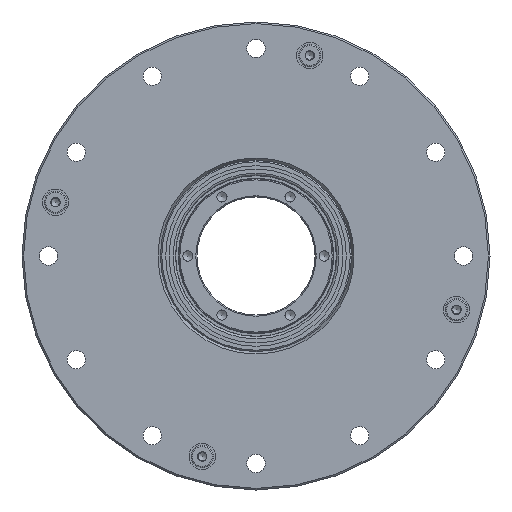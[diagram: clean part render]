
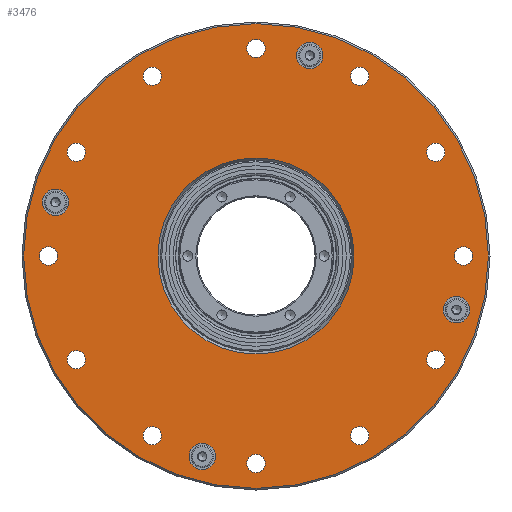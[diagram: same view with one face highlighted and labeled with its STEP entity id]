
A CAD part, left-side view. The second image highlights one B-rep face of the part: STEP entity #3476.
In plain terms, the highlighted planar face has unit normal (-1, 0, 0).
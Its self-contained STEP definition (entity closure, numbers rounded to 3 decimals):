
#1457=PLANE('',#15965);
#3476=ADVANCED_FACE('',(#5173,#5174,#5175,#5176,#5177,#5178,#5179,#5180,
#5181,#5182,#5183,#5184,#5185,#5186,#5187,#5188,#5189,#5190),#1457,.F.);
#5173=FACE_BOUND('',#6898,.T.);
#5174=FACE_BOUND('',#6899,.T.);
#5175=FACE_BOUND('',#6900,.T.);
#5176=FACE_BOUND('',#6901,.T.);
#5177=FACE_BOUND('',#6902,.T.);
#5178=FACE_BOUND('',#6903,.T.);
#5179=FACE_BOUND('',#6904,.T.);
#5180=FACE_BOUND('',#6905,.T.);
#5181=FACE_BOUND('',#6906,.T.);
#5182=FACE_BOUND('',#6907,.T.);
#5183=FACE_BOUND('',#6908,.T.);
#5184=FACE_BOUND('',#6909,.T.);
#5185=FACE_BOUND('',#6910,.T.);
#5186=FACE_BOUND('',#6911,.T.);
#5187=FACE_BOUND('',#6912,.T.);
#5188=FACE_BOUND('',#6913,.T.);
#5189=FACE_BOUND('',#6914,.T.);
#5190=FACE_BOUND('',#6915,.T.);
#6898=EDGE_LOOP('',(#9750));
#6899=EDGE_LOOP('',(#9751));
#6900=EDGE_LOOP('',(#9752));
#6901=EDGE_LOOP('',(#9753));
#6902=EDGE_LOOP('',(#9754));
#6903=EDGE_LOOP('',(#9755));
#6904=EDGE_LOOP('',(#9756));
#6905=EDGE_LOOP('',(#9757));
#6906=EDGE_LOOP('',(#9758));
#6907=EDGE_LOOP('',(#9759));
#6908=EDGE_LOOP('',(#9760));
#6909=EDGE_LOOP('',(#9761));
#6910=EDGE_LOOP('',(#9762));
#6911=EDGE_LOOP('',(#9763));
#6912=EDGE_LOOP('',(#9764));
#6913=EDGE_LOOP('',(#9765));
#6914=EDGE_LOOP('',(#9766));
#6915=EDGE_LOOP('',(#9767));
#9750=ORIENTED_EDGE('',*,*,#12880,.T.);
#9751=ORIENTED_EDGE('',*,*,#12869,.T.);
#9752=ORIENTED_EDGE('',*,*,#12867,.T.);
#9753=ORIENTED_EDGE('',*,*,#12865,.T.);
#9754=ORIENTED_EDGE('',*,*,#12863,.T.);
#9755=ORIENTED_EDGE('',*,*,#12861,.T.);
#9756=ORIENTED_EDGE('',*,*,#12859,.T.);
#9757=ORIENTED_EDGE('',*,*,#12857,.T.);
#9758=ORIENTED_EDGE('',*,*,#12855,.T.);
#9759=ORIENTED_EDGE('',*,*,#12853,.T.);
#9760=ORIENTED_EDGE('',*,*,#12851,.T.);
#9761=ORIENTED_EDGE('',*,*,#12849,.T.);
#9762=ORIENTED_EDGE('',*,*,#12847,.T.);
#9763=ORIENTED_EDGE('',*,*,#12842,.T.);
#9764=ORIENTED_EDGE('',*,*,#12838,.T.);
#9765=ORIENTED_EDGE('',*,*,#12834,.T.);
#9766=ORIENTED_EDGE('',*,*,#12830,.T.);
#9767=ORIENTED_EDGE('',*,*,#12829,.T.);
#11344=VERTEX_POINT('',#29207);
#11345=VERTEX_POINT('',#29210);
#11349=VERTEX_POINT('',#29221);
#11353=VERTEX_POINT('',#29232);
#11357=VERTEX_POINT('',#29243);
#11362=VERTEX_POINT('',#29256);
#11364=VERTEX_POINT('',#29261);
#11366=VERTEX_POINT('',#29266);
#11368=VERTEX_POINT('',#29271);
#11370=VERTEX_POINT('',#29276);
#11372=VERTEX_POINT('',#29281);
#11374=VERTEX_POINT('',#29286);
#11376=VERTEX_POINT('',#29291);
#11378=VERTEX_POINT('',#29296);
#11380=VERTEX_POINT('',#29301);
#11382=VERTEX_POINT('',#29306);
#11384=VERTEX_POINT('',#29311);
#11395=VERTEX_POINT('',#29339);
#12829=EDGE_CURVE('',#11344,#11344,#14144,.T.);
#12830=EDGE_CURVE('',#11345,#11345,#14145,.T.);
#12834=EDGE_CURVE('',#11349,#11349,#14149,.T.);
#12838=EDGE_CURVE('',#11353,#11353,#14153,.T.);
#12842=EDGE_CURVE('',#11357,#11357,#14157,.T.);
#12847=EDGE_CURVE('',#11362,#11362,#14162,.T.);
#12849=EDGE_CURVE('',#11364,#11364,#14164,.T.);
#12851=EDGE_CURVE('',#11366,#11366,#14166,.T.);
#12853=EDGE_CURVE('',#11368,#11368,#14168,.T.);
#12855=EDGE_CURVE('',#11370,#11370,#14170,.T.);
#12857=EDGE_CURVE('',#11372,#11372,#14172,.T.);
#12859=EDGE_CURVE('',#11374,#11374,#14174,.T.);
#12861=EDGE_CURVE('',#11376,#11376,#14176,.T.);
#12863=EDGE_CURVE('',#11378,#11378,#14178,.T.);
#12865=EDGE_CURVE('',#11380,#11380,#14180,.T.);
#12867=EDGE_CURVE('',#11382,#11382,#14182,.T.);
#12869=EDGE_CURVE('',#11384,#11384,#14184,.T.);
#12880=EDGE_CURVE('',#11395,#11395,#14195,.T.);
#14144=CIRCLE('',#15842,24.077);
#14145=CIRCLE('',#15844,3.25);
#14149=CIRCLE('',#15851,3.25);
#14153=CIRCLE('',#15858,3.25);
#14157=CIRCLE('',#15865,3.25);
#14162=CIRCLE('',#15873,2.25);
#14164=CIRCLE('',#15876,2.25);
#14166=CIRCLE('',#15879,2.25);
#14168=CIRCLE('',#15882,2.25);
#14170=CIRCLE('',#15885,2.25);
#14172=CIRCLE('',#15888,2.25);
#14174=CIRCLE('',#15891,2.25);
#14176=CIRCLE('',#15894,2.25);
#14178=CIRCLE('',#15897,2.25);
#14180=CIRCLE('',#15900,2.25);
#14182=CIRCLE('',#15903,2.25);
#14184=CIRCLE('',#15906,2.25);
#14195=CIRCLE('',#15923,57.1);
#15842=AXIS2_PLACEMENT_3D('',#29206,#19371,#19372);
#15844=AXIS2_PLACEMENT_3D('',#29209,#19375,#19376);
#15851=AXIS2_PLACEMENT_3D('',#29220,#19389,#19390);
#15858=AXIS2_PLACEMENT_3D('',#29231,#19403,#19404);
#15865=AXIS2_PLACEMENT_3D('',#29242,#19417,#19418);
#15873=AXIS2_PLACEMENT_3D('',#29255,#19433,#19434);
#15876=AXIS2_PLACEMENT_3D('',#29260,#19439,#19440);
#15879=AXIS2_PLACEMENT_3D('',#29265,#19445,#19446);
#15882=AXIS2_PLACEMENT_3D('',#29270,#19451,#19452);
#15885=AXIS2_PLACEMENT_3D('',#29275,#19457,#19458);
#15888=AXIS2_PLACEMENT_3D('',#29280,#19463,#19464);
#15891=AXIS2_PLACEMENT_3D('',#29285,#19469,#19470);
#15894=AXIS2_PLACEMENT_3D('',#29290,#19475,#19476);
#15897=AXIS2_PLACEMENT_3D('',#29295,#19481,#19482);
#15900=AXIS2_PLACEMENT_3D('',#29300,#19487,#19488);
#15903=AXIS2_PLACEMENT_3D('',#29305,#19493,#19494);
#15906=AXIS2_PLACEMENT_3D('',#29310,#19499,#19500);
#15923=AXIS2_PLACEMENT_3D('',#29338,#19533,#19534);
#15965=AXIS2_PLACEMENT_3D('',#29399,#19617,#19618);
#19371=DIRECTION('',(1.,0.,0.));
#19372=DIRECTION('',(0.,1.,0.));
#19375=DIRECTION('',(1.,0.,0.));
#19376=DIRECTION('',(0.,0.,1.));
#19389=DIRECTION('',(1.,0.,0.));
#19390=DIRECTION('',(0.,-1.,0.));
#19403=DIRECTION('',(1.,0.,0.));
#19404=DIRECTION('',(0.,0.,-1.));
#19417=DIRECTION('',(1.,0.,0.));
#19418=DIRECTION('',(0.,1.,0.));
#19433=DIRECTION('',(1.,0.,0.));
#19434=DIRECTION('',(0.,0.5,0.866));
#19439=DIRECTION('',(1.,0.,0.));
#19440=DIRECTION('',(0.,0.,1.));
#19445=DIRECTION('',(1.,0.,0.));
#19446=DIRECTION('',(0.,-0.5,0.866));
#19451=DIRECTION('',(1.,0.,0.));
#19452=DIRECTION('',(0.,-0.866,0.5));
#19457=DIRECTION('',(1.,0.,0.));
#19458=DIRECTION('',(0.,-1.,0.));
#19463=DIRECTION('',(1.,0.,0.));
#19464=DIRECTION('',(0.,-0.866,-0.5));
#19469=DIRECTION('',(1.,0.,0.));
#19470=DIRECTION('',(0.,-0.5,-0.866));
#19475=DIRECTION('',(1.,0.,0.));
#19476=DIRECTION('',(0.,0.,-1.));
#19481=DIRECTION('',(1.,0.,0.));
#19482=DIRECTION('',(0.,0.5,-0.866));
#19487=DIRECTION('',(1.,0.,0.));
#19488=DIRECTION('',(0.,0.866,-0.5));
#19493=DIRECTION('',(1.,0.,0.));
#19494=DIRECTION('',(0.,0.866,0.5));
#19499=DIRECTION('',(1.,0.,0.));
#19500=DIRECTION('',(0.,1.,0.));
#19533=DIRECTION('',(-1.,0.,0.));
#19534=DIRECTION('',(0.,1.,0.));
#19617=DIRECTION('',(1.,0.,0.));
#19618=DIRECTION('',(0.,1.,0.));
#29206=CARTESIAN_POINT('',(6.,0.,0.));
#29207=CARTESIAN_POINT('',(6.,24.077,0.));
#29209=CARTESIAN_POINT('',(6.,-49.262,-13.2));
#29210=CARTESIAN_POINT('',(6.,-49.262,-9.95));
#29220=CARTESIAN_POINT('',(6.,13.2,-49.262));
#29221=CARTESIAN_POINT('',(6.,9.95,-49.262));
#29231=CARTESIAN_POINT('',(6.,49.262,13.2));
#29232=CARTESIAN_POINT('',(6.,49.262,9.95));
#29242=CARTESIAN_POINT('',(6.,-13.2,49.262));
#29243=CARTESIAN_POINT('',(6.,-9.95,49.262));
#29255=CARTESIAN_POINT('',(6.,-44.167,25.5));
#29256=CARTESIAN_POINT('',(6.,-43.042,27.449));
#29260=CARTESIAN_POINT('',(6.,-51.,0.));
#29261=CARTESIAN_POINT('',(6.,-51.,2.25));
#29265=CARTESIAN_POINT('',(6.,-44.167,-25.5));
#29266=CARTESIAN_POINT('',(6.,-45.292,-23.551));
#29270=CARTESIAN_POINT('',(6.,-25.5,-44.167));
#29271=CARTESIAN_POINT('',(6.,-27.449,-43.042));
#29275=CARTESIAN_POINT('',(6.,0.,-51.));
#29276=CARTESIAN_POINT('',(6.,-2.25,-51.));
#29280=CARTESIAN_POINT('',(6.,25.5,-44.167));
#29281=CARTESIAN_POINT('',(6.,23.551,-45.292));
#29285=CARTESIAN_POINT('',(6.,44.167,-25.5));
#29286=CARTESIAN_POINT('',(6.,43.042,-27.449));
#29290=CARTESIAN_POINT('',(6.,51.,0.));
#29291=CARTESIAN_POINT('',(6.,51.,-2.25));
#29295=CARTESIAN_POINT('',(6.,44.167,25.5));
#29296=CARTESIAN_POINT('',(6.,45.292,23.551));
#29300=CARTESIAN_POINT('',(6.,25.5,44.167));
#29301=CARTESIAN_POINT('',(6.,27.449,43.042));
#29305=CARTESIAN_POINT('',(6.,-25.5,44.167));
#29306=CARTESIAN_POINT('',(6.,-23.551,45.292));
#29310=CARTESIAN_POINT('',(6.,0.,51.));
#29311=CARTESIAN_POINT('',(6.,2.25,51.));
#29338=CARTESIAN_POINT('',(6.,0.,0.));
#29339=CARTESIAN_POINT('',(6.,57.1,0.));
#29399=CARTESIAN_POINT('',(6.,0.,57.5));
